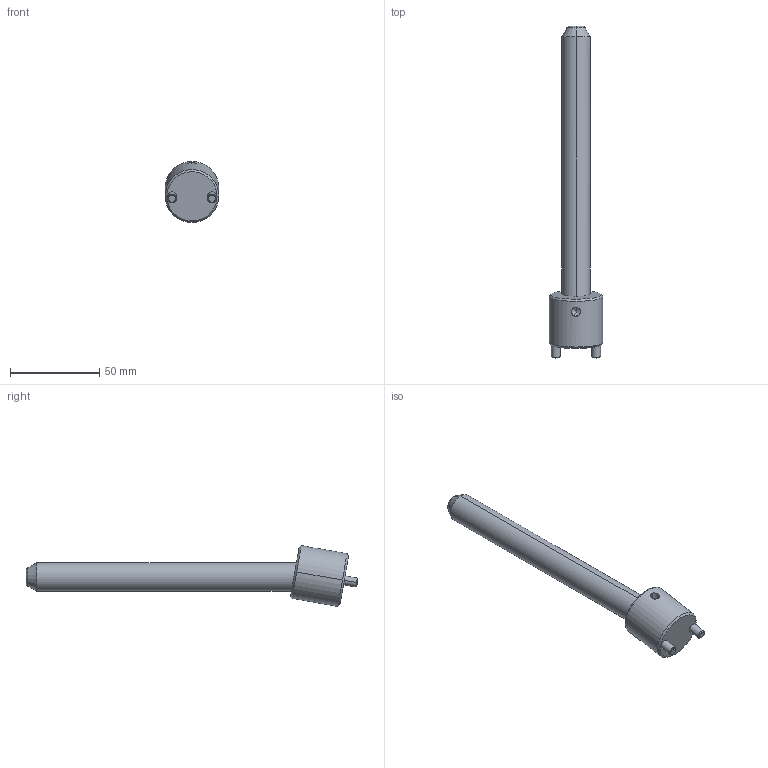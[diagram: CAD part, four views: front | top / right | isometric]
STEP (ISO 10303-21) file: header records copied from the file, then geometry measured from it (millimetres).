
FILE_DESCRIPTION(('CATIA V5 STEP Exchange'),'2;1');
FILE_NAME('C:\Users\Raffaele\Desktop\3D BOLEX\3D FILES CF BOLEX\19-INCLINED ASSEMBLY REF_CI\CI1016150.stp','2019-06-21T13:54:15+00:00',('none'),('none'),'CATIA Version 5 Release 20 GA (IN-10)','CATIA V5 STEP AP203','none');
FILE_SCHEMA(('CONFIG_CONTROL_DESIGN'));
Length unit declared in the file: millimetre
Products named in the file (1): CI1016150
Assembly tree (2 placements, depth 2):
  CI1016150
    #58
    #587
Bounding box: 30 x 185.83 x 34.06 mm (x, y, z)
Volume: 49398.2 mm3; surface area: 14488.8 mm2
Topology: 2 solids, 2 shells, 39 faces, 82 edges, 47 vertices
Faces by surface type: cone 14, cylinder 14, plane 7, torus 4
Entity records: 1488 total; most frequent: CARTESIAN_POINT 631, ORIENTED_EDGE 160, DIRECTION 144, EDGE_CURVE 80, AXIS2_PLACEMENT_3D 71, VERTEX_POINT 47, EDGE_LOOP 43, ADVANCED_FACE 39
